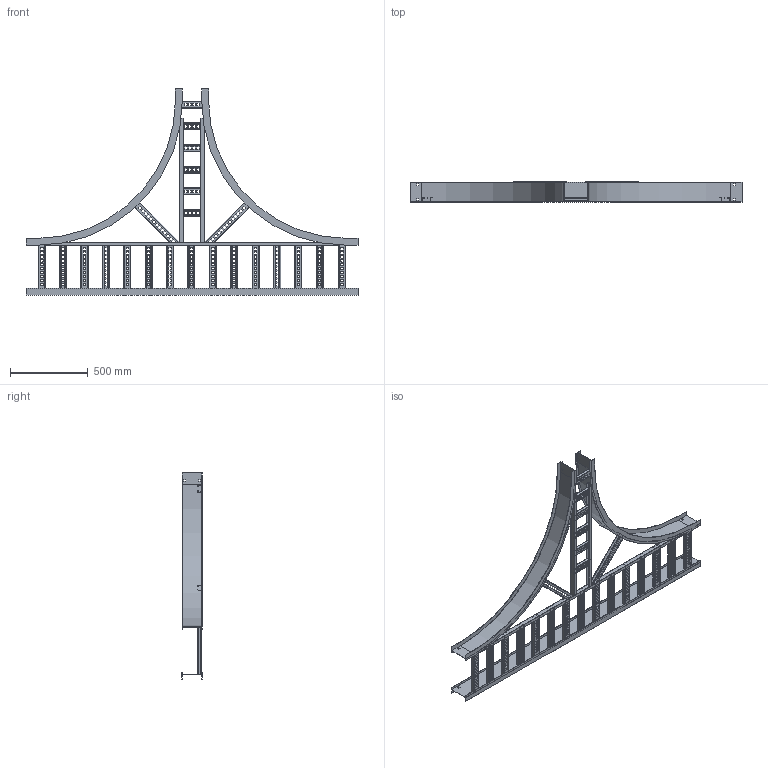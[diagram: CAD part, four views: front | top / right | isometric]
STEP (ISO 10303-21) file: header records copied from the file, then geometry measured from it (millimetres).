
FILE_DESCRIPTION((''),'2;1');
FILE_NAME('AHF51206VRT36_ASM','2010-02-15T',('erouzier'),(''),'PRO/ENGINEER BY PARAMETRIC TECHNOLOGY CORPORATION, 2008510','PRO/ENGINEER BY PARAMETRIC TECHNOLOGY CORPORATION, 2008510','');
FILE_SCHEMA(('CONFIG_CONTROL_DESIGN'));
Length unit declared in the file: inch
Products named in the file (22): CDS001811-5-90-36-I; CDS013846-5-84; CDS000495_GEN_AF9; CDS002159L12-P_AF32; CDS002159L12-P_AF33; CDS002159L12-P_AF34; CDS002159L12-P_AF35; CDS002159L12-P; CDS002159L12-P_AF36; CDS002159L12-P_AF37; CDS002159L12-P_AF38; CDS002159L12-P_AF39; CDS000495_GEN_AF10; CDS000495_GEN_AF11; CDS002159L18-P_AF12; CDS002159L18-P_AF13; CDS002159L6-P_AF4; CDS002159L6-P_AF5; CDS002159L6-P; CDS002159L6-P_AF6; CDS002159L6-P_AF7; AHF51206VRT36_ASM
Assembly tree (29 placements, depth 2):
  AHF51206VRT36_ASM
    CDS001811-5-90-36-I  x2
    CDS013846-5-84
    CDS000495_GEN_AF9
    CDS002159L12-P_AF32
    CDS002159L12-P_AF33
    CDS002159L12-P_AF34
    CDS002159L12-P_AF35
    CDS002159L12-P  x7
    CDS002159L12-P_AF36
    CDS002159L12-P_AF37
    CDS002159L12-P_AF38
    CDS002159L12-P_AF39
    CDS000495_GEN_AF10
    CDS000495_GEN_AF11
    CDS002159L18-P_AF12
    CDS002159L18-P_AF13
    CDS002159L6-P_AF4
    CDS002159L6-P_AF5
    CDS002159L6-P  x2
    CDS002159L6-P_AF6
    CDS002159L6-P_AF7
Bounding box: 2137.66 x 129.54 x 1328.04 mm (x, y, z)
Volume: 3747892.2 mm3; surface area: 4157935 mm2
Topology: 29 solids, 29 shells, 2434 faces, 7128 edges, 4752 vertices
Faces by surface type: plane 1371, cylinder 1063
Entity records: 56855 total; most frequent: CARTESIAN_POINT 10033, ORIENTED_EDGE 9768, DIRECTION 9730, EDGE_CURVE 4884, VECTOR 3436, LINE 3436, VERTEX_POINT 3256, AXIS2_PLACEMENT_3D 3147
